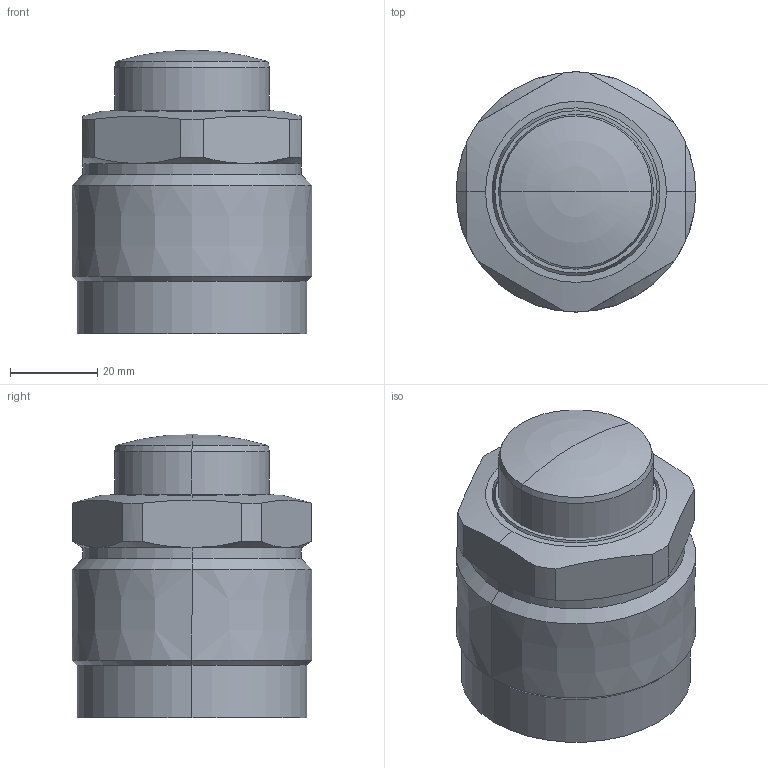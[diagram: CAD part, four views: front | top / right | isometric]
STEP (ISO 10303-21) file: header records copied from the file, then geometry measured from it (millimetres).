
FILE_DESCRIPTION (( 'STEP AP203' ), '1' );
FILE_NAME ('650551-RS.step', '2016-11-02T03:15:05', ( 'wxp' ), ( '' ), 'SwSTEP 2.0', 'SolidWorks 2011', '' );
FILE_SCHEMA (( 'CONFIG_CONTROL_DESIGN' ));
Length unit declared in the file: millimetre
Products named in the file (3): 650551-RS; 葩璃 650551-RS.sldasm-Part-2^650551-RS; 葩璃 650551-RS.sldasm-Part-1^650551-RS
Assembly tree (2 placements, depth 2):
  650551-RS
    葩璃 650551-RS.sldasm-Part-2^650551-RS
    葩璃 650551-RS.sldasm-Part-1^650551-RS
Bounding box: 55 x 55 x 65 mm (x, y, z)
Volume: 126082 mm3; surface area: 17899 mm2
Topology: 2 solids, 2 shells, 66 faces, 144 edges, 84 vertices
Faces by surface type: cylinder 24, cone 20, plane 14, torus 8
Entity records: 2177 total; most frequent: CARTESIAN_POINT 473, DIRECTION 314, ORIENTED_EDGE 280, AXIS2_PLACEMENT_3D 141, EDGE_CURVE 140, VERTEX_POINT 84, EDGE_LOOP 72, CIRCLE 70
